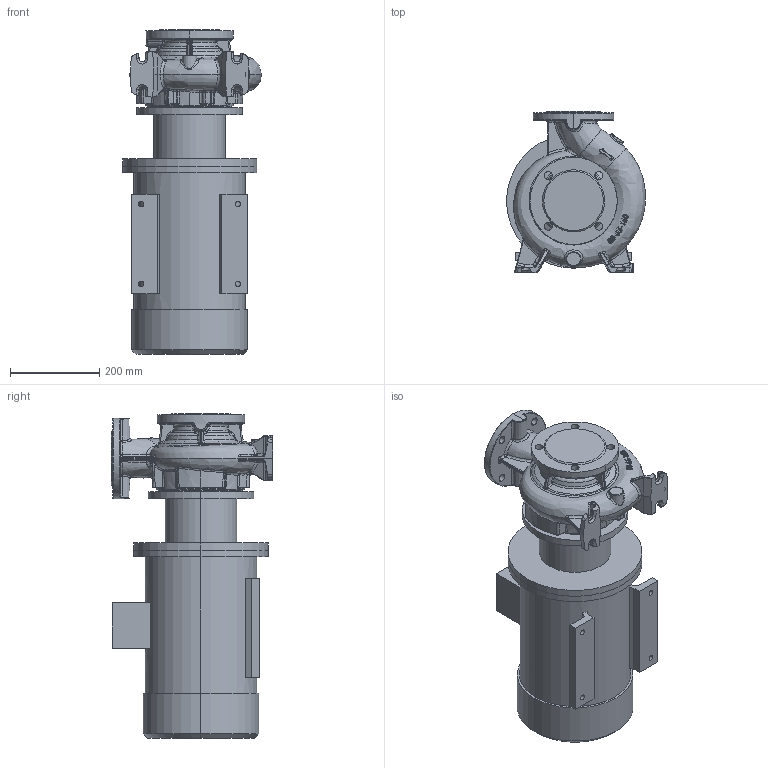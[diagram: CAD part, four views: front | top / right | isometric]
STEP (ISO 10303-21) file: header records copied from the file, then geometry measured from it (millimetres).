
FILE_DESCRIPTION (( 'STEP AP203' ), '1' );
FILE_NAME ('KRM 80-65-160-2-7,5.STEP', '2026-05-07T09:52:34', ( '' ), ( '' ), 'SwSTEP 2.0', 'SolidWorks 2016', '' );
FILE_SCHEMA (( 'CONFIG_CONTROL_DESIGN' ));
Products named in the file (1): KRM 80-65-160-2-7,5
Bounding box: 310.69 x 360 x 726.3 mm (x, y, z)
Volume: 34812325.2 mm3; surface area: 1341024.7 mm2
Topology: 14 solids, 14 shells, 1137 faces, 2722 edges, 1603 vertices
Faces by surface type: bspline 533, cylinder 216, plane 207, torus 104, cone 58, sphere 19
Entity records: 62274 total; most frequent: CARTESIAN_POINT 39904, ORIENTED_EDGE 5386, DIRECTION 3667, EDGE_CURVE 2693, VERTEX_POINT 1603, AXIS2_PLACEMENT_3D 1524, EDGE_LOOP 1192, FACE_OUTER_BOUND 1137
